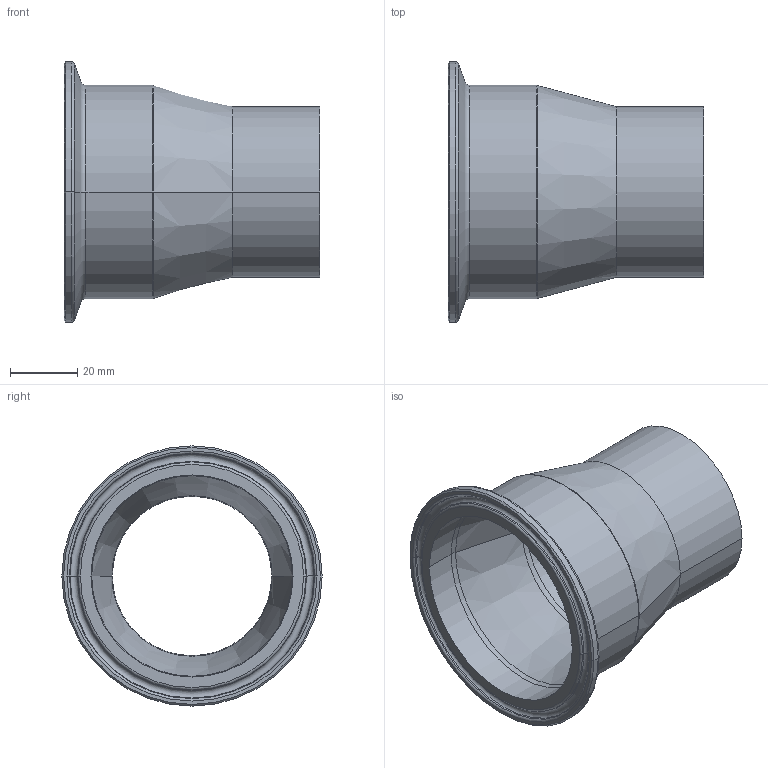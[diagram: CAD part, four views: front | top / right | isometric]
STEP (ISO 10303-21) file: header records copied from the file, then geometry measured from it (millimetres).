
FILE_DESCRIPTION (( 'STEP AP214' ), '1' );
FILE_NAME ('TE31SCW6L2.5x2.0-...STEP', '2016-05-29T11:33:42', ( 'eran' ), ( '' ), 'SwSTEP 2.0', 'SolidWorks 2016', '' );
FILE_SCHEMA (( 'AUTOMOTIVE_DESIGN' ));
Length unit declared in the file: millimetre
Products named in the file (1): TE31SCW6L2.5x2.0-..
Bounding box: 76.2 x 77.5 x 77.5 mm (x, y, z)
Volume: 45220.3 mm3; surface area: 29784.1 mm2
Topology: 1 solids, 1 shells, 41 faces, 82 edges, 44 vertices
Faces by surface type: torus 16, cone 12, cylinder 10, plane 3
Entity records: 1098 total; most frequent: DIRECTION 226, CARTESIAN_POINT 168, ORIENTED_EDGE 164, AXIS2_PLACEMENT_3D 102, EDGE_CURVE 82, CIRCLE 60, EDGE_LOOP 44, VERTEX_POINT 44
